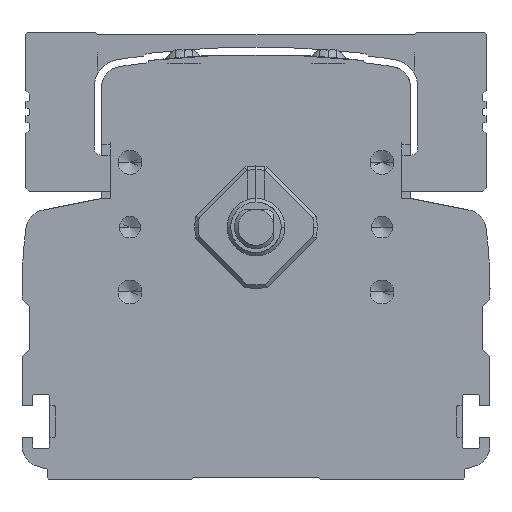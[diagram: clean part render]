
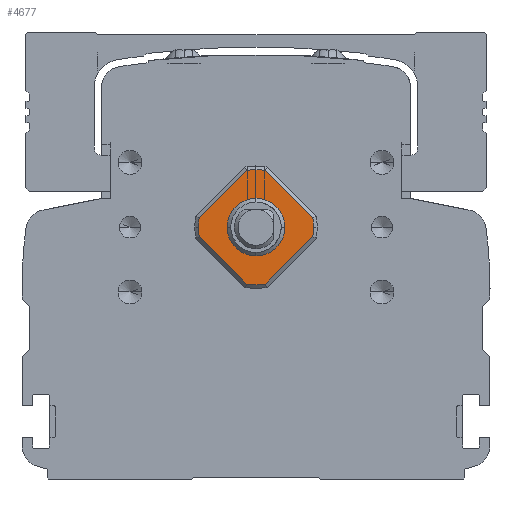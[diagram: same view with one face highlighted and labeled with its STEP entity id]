
A CAD part, front view. The second image highlights one B-rep face of the part: STEP entity #4677.
In plain terms, the highlighted planar face has unit normal (0, -1, 0).
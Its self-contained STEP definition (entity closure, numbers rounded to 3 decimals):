
#4677=ADVANCED_FACE('',(#9671,#9672),#9673,.T.);
#9671=FACE_OUTER_BOUND('',#15700,.T.);
#9672=FACE_BOUND('',#15701,.T.);
#9673=PLANE('',#15702);
#15700=EDGE_LOOP('',(#29133,#29134,#29135,#29136,#29137,#29138,#29139,#29140,#29141,#29142));
#15701=EDGE_LOOP('',(#29143,#29144));
#15702=AXIS2_PLACEMENT_3D('',#29145,#29146,#29147);
#29133=ORIENTED_EDGE('',*,*,#38011,.T.);
#29134=ORIENTED_EDGE('',*,*,#38012,.T.);
#29135=ORIENTED_EDGE('',*,*,#38013,.T.);
#29136=ORIENTED_EDGE('',*,*,#38014,.T.);
#29137=ORIENTED_EDGE('',*,*,#38015,.T.);
#29138=ORIENTED_EDGE('',*,*,#38016,.T.);
#29139=ORIENTED_EDGE('',*,*,#38017,.T.);
#29140=ORIENTED_EDGE('',*,*,#38018,.T.);
#29141=ORIENTED_EDGE('',*,*,#38019,.T.);
#29142=ORIENTED_EDGE('',*,*,#38020,.T.);
#29143=ORIENTED_EDGE('',*,*,#38021,.T.);
#29144=ORIENTED_EDGE('',*,*,#38022,.T.);
#29145=CARTESIAN_POINT('',(300.,-67.,9.899));
#29146=DIRECTION('',(0.,-1.0,0.));
#29147=DIRECTION('',(1.0,0.,0.));
#38011=EDGE_CURVE('',#46888,#46889,#46890,.F.);
#38012=EDGE_CURVE('',#46889,#46891,#46892,.T.);
#38013=EDGE_CURVE('',#46891,#46893,#46894,.F.);
#38014=EDGE_CURVE('',#46893,#46895,#46896,.F.);
#38015=EDGE_CURVE('',#46895,#46897,#46898,.T.);
#38016=EDGE_CURVE('',#46897,#46899,#46900,.F.);
#38017=EDGE_CURVE('',#46899,#46901,#46902,.T.);
#38018=EDGE_CURVE('',#46901,#46903,#46904,.F.);
#38019=EDGE_CURVE('',#46903,#46905,#46906,.F.);
#38020=EDGE_CURVE('',#46905,#46888,#46907,.T.);
#38021=EDGE_CURVE('',#46908,#46909,#46910,.F.);
#38022=EDGE_CURVE('',#46909,#46908,#46911,.F.);
#46888=VERTEX_POINT('',#59390);
#46889=VERTEX_POINT('',#59391);
#46890=CIRCLE('',#59392,8.0);
#46891=VERTEX_POINT('',#59393);
#46892=LINE('',#59394,#59395);
#46893=VERTEX_POINT('',#59396);
#46894=CIRCLE('',#59397,8.0);
#46895=VERTEX_POINT('',#59398);
#46896=CIRCLE('',#59399,8.0);
#46897=VERTEX_POINT('',#59400);
#46898=LINE('',#59401,#59402);
#46899=VERTEX_POINT('',#59403);
#46900=CIRCLE('',#59404,8.0);
#46901=VERTEX_POINT('',#59405);
#46902=LINE('',#59406,#59407);
#46903=VERTEX_POINT('',#59408);
#46904=CIRCLE('',#59409,8.0);
#46905=VERTEX_POINT('',#59410);
#46906=CIRCLE('',#59411,8.0);
#46907=LINE('',#59412,#59413);
#46908=VERTEX_POINT('',#59414);
#46909=VERTEX_POINT('',#59415);
#46910=CIRCLE('',#59416,4.);
#46911=CIRCLE('',#59417,4.);
#59390=CARTESIAN_POINT('',(298.702,-67.,-7.894));
#59391=CARTESIAN_POINT('',(301.298,-67.,-7.894));
#59392=AXIS2_PLACEMENT_3D('',#66808,#66809,#66810);
#59393=CARTESIAN_POINT('',(307.894,-67.,-1.298));
#59394=CARTESIAN_POINT('',(301.298,-67.,-7.894));
#59395=VECTOR('',#66811,1000.0);
#59396=CARTESIAN_POINT('',(308.,-67.,0.));
#59397=AXIS2_PLACEMENT_3D('',#66812,#66813,#66814);
#59398=CARTESIAN_POINT('',(307.894,-67.,1.298));
#59399=AXIS2_PLACEMENT_3D('',#66815,#66816,#66817);
#59400=CARTESIAN_POINT('',(301.298,-67.,7.894));
#59401=CARTESIAN_POINT('',(307.894,-67.,1.298));
#59402=VECTOR('',#66818,1000.0);
#59403=CARTESIAN_POINT('',(298.702,-67.,7.894));
#59404=AXIS2_PLACEMENT_3D('',#66819,#66820,#66821);
#59405=CARTESIAN_POINT('',(292.106,-67.,1.298));
#59406=CARTESIAN_POINT('',(298.702,-67.,7.894));
#59407=VECTOR('',#66822,1000.0);
#59408=CARTESIAN_POINT('',(292.,-67.,0.));
#59409=AXIS2_PLACEMENT_3D('',#66823,#66824,#66825);
#59410=CARTESIAN_POINT('',(292.106,-67.,-1.298));
#59411=AXIS2_PLACEMENT_3D('',#66826,#66827,#66828);
#59412=CARTESIAN_POINT('',(292.106,-67.,-1.298));
#59413=VECTOR('',#66829,1000.0);
#59414=CARTESIAN_POINT('',(304.,-67.,0.));
#59415=CARTESIAN_POINT('',(296.,-67.,0.));
#59416=AXIS2_PLACEMENT_3D('',#66830,#66831,#66832);
#59417=AXIS2_PLACEMENT_3D('',#66833,#66834,#66835);
#66808=CARTESIAN_POINT('',(300.,-67.,0.));
#66809=DIRECTION('',(0.,1.0,0.));
#66810=DIRECTION('',(-1.0,0.,0.));
#66811=DIRECTION('',(0.707,0.,0.707));
#66812=CARTESIAN_POINT('',(300.,-67.,0.));
#66813=DIRECTION('',(0.,1.0,0.));
#66814=DIRECTION('',(-1.0,0.,0.));
#66815=CARTESIAN_POINT('',(300.,-67.,0.));
#66816=DIRECTION('',(0.,1.0,0.));
#66817=DIRECTION('',(-1.0,0.,0.));
#66818=DIRECTION('',(-0.707,0.,0.707));
#66819=CARTESIAN_POINT('',(300.,-67.,0.));
#66820=DIRECTION('',(0.,1.0,0.));
#66821=DIRECTION('',(-1.0,0.,0.));
#66822=DIRECTION('',(-0.707,0.,-0.707));
#66823=CARTESIAN_POINT('',(300.,-67.,0.));
#66824=DIRECTION('',(0.,1.0,0.));
#66825=DIRECTION('',(-1.0,0.,0.));
#66826=CARTESIAN_POINT('',(300.,-67.,0.));
#66827=DIRECTION('',(0.,1.0,0.));
#66828=DIRECTION('',(-1.0,0.,0.));
#66829=DIRECTION('',(0.707,0.,-0.707));
#66830=CARTESIAN_POINT('',(300.,-67.,0.));
#66831=DIRECTION('',(0.,-1.0,0.));
#66832=DIRECTION('',(1.0,0.,0.));
#66833=CARTESIAN_POINT('',(300.,-67.,0.));
#66834=DIRECTION('',(0.,-1.0,0.));
#66835=DIRECTION('',(1.0,0.,0.));
